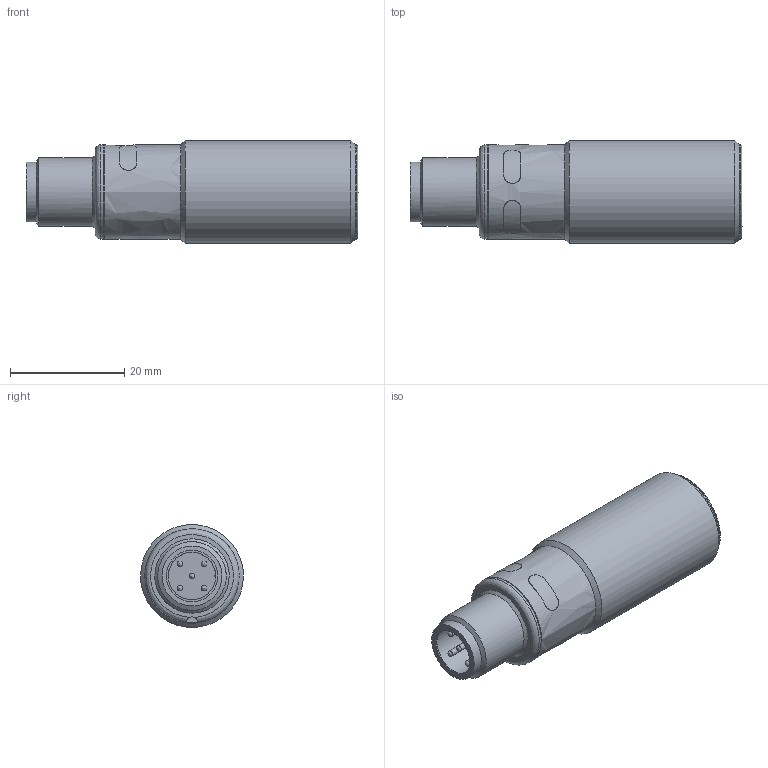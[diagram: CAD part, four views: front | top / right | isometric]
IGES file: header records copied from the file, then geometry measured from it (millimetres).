
Global section: file name: lpc+35_XX; native system: Autodesk Inventor 2017; preprocessor: unknown; author: Ohle; date: 20181126.115345; units: millimetre
Bounding box: 58.1 x 18 x 18 mm (x, y, z)
Volume: 11870.7 mm3; surface area: 3752.8 mm2
Topology: 1 solids, 1 shells, 50 faces, 128 edges, 89 vertices
Faces by surface type: bspline 50
